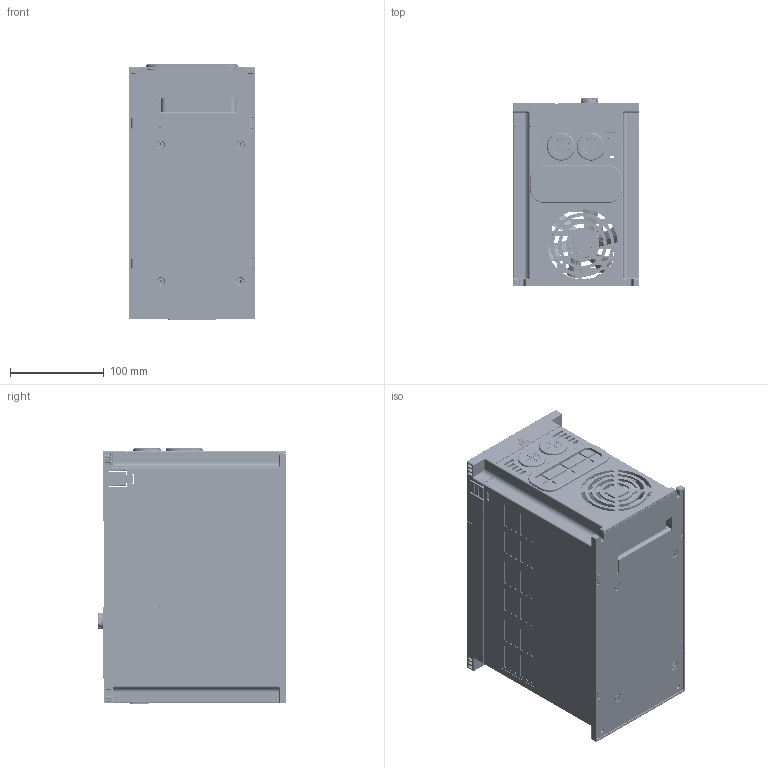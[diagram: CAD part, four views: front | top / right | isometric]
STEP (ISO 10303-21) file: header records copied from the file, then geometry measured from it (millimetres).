
FILE_DESCRIPTION (( 'STEP AP203' ), '1' );
FILE_NAME ('YD101-F3 (外发客户）.STEP', '2019-08-29T01:15:27', ( 'User' ), ( 'china' ), 'SwSTEP 2.0', 'SolidWorks 2017', '' );
FILE_SCHEMA (( 'CONFIG_CONTROL_DESIGN' ));
Products named in the file (31): YCON1059_Upper Cover-2; YCON1063_瑞絳啣(狟); YCON1061_菁啣; YCON1057_keypad downcover 12.06.28; YD101-F3  (外发客户）; YSCR142_諉華蹟佪M5-10; epk116vn-09p; RJ45 180僅 8p; YLAB053-054_硌尨腑梓ワ; YPCB125-126_电容板组立; TACTLE SWITCH SNTTYPE   ELTM-41; YCON1124_橈埽え(諷秶啣) ; YSCR057_M4-8; VR 10.12.07; YCON1060_Terminal Cover; YSCR098_蹟佪(菁啣)_B18.6.7M - M3 x 0.5 x 5 Type I Cross Recessed FHMS --5N; YSCR011_M3-8; YCON1058_KB-A011-2P-WP(帽子）12.04.12; YFAN044_FAN-8c-38W; YSCR144_蹟佪(眊极)_B18.6.7M - M3 x 0.5 x 5 Type I Cross Recessed FHMS --5N; YLAB040_MODEL LABEL ; YLAB036_KEYPADLABEL 12.6.27; YCON1058_keypad cover12.06.28; 橡胶塞 YD101 F3 13.08.06; YPCG017_敃侗; keypad 12.6.28; YPCBA109_keypad pcb 12.06.27; YCNT345; YLAB038_劑豢梓ワ; YCNT353_鞠褒翐 17mm_蕼偞; LED
Assembly tree (59 placements, depth 3):
  YD101-F3  (外发客户）
    YCON1060_Terminal Cover
    YFAN044_FAN-8c-38W
    keypad 12.6.28
      YCON1058_keypad cover12.06.28
      YPCBA109_keypad pcb 12.06.27
      LED
      YCON1057_keypad downcover 12.06.28
      RJ45 180僅 8p
      TACTLE SWITCH SNTTYPE   ELTM-41  x6
      VR 10.12.07
      YCON1058_KB-A011-2P-WP(帽子）12.04.12
      YLAB036_KEYPADLABEL 12.6.27
    YCNT353_鞠褒翐 17mm_蕼偞  x3
    YCON1061_菁啣
    YPCB125-126_电容板组立
      epk116vn-09p
    YSCR057_M4-8  x8
    YSCR011_M3-8  x3
    YLAB040_MODEL LABEL 
    YPCG017_敃侗  x2
    YLAB038_劑豢梓ワ
    YCON1063_瑞絳啣(狟)
    YSCR142_諉華蹟佪M5-10  x2
    YLAB053-054_硌尨腑梓ワ
    YCON1124_橈埽え(諷秶啣) 
    YSCR098_蹟佪(菁啣)_B18.6.7M - M3 x 0.5 x 5 Type I Cross Recessed FHMS --5N  x6
    YSCR144_蹟佪(眊极)_B18.6.7M - M3 x 0.5 x 5 Type I Cross Recessed FHMS --5N  x3
    橡胶塞 YD101 F3 13.08.06
    YCNT345  x5
    YCON1059_Upper Cover-2
Bounding box: 135 x 201.64 x 272.55 mm (x, y, z)
Volume: 674177.9 mm3; surface area: 674813.1 mm2
Topology: 116 solids, 127 shells, 14715 faces, 38452 edges, 24787 vertices
Faces by surface type: plane 8336, bspline 2882, cylinder 2601, cone 344, torus 309, sphere 243
Entity records: 514646 total; most frequent: CARTESIAN_POINT 225674, ORIENTED_EDGE 65430, DIRECTION 48372, EDGE_CURVE 32741, VERTEX_POINT 21189, LINE 20366, VECTOR 20366, AXIS2_PLACEMENT_3D 14003
